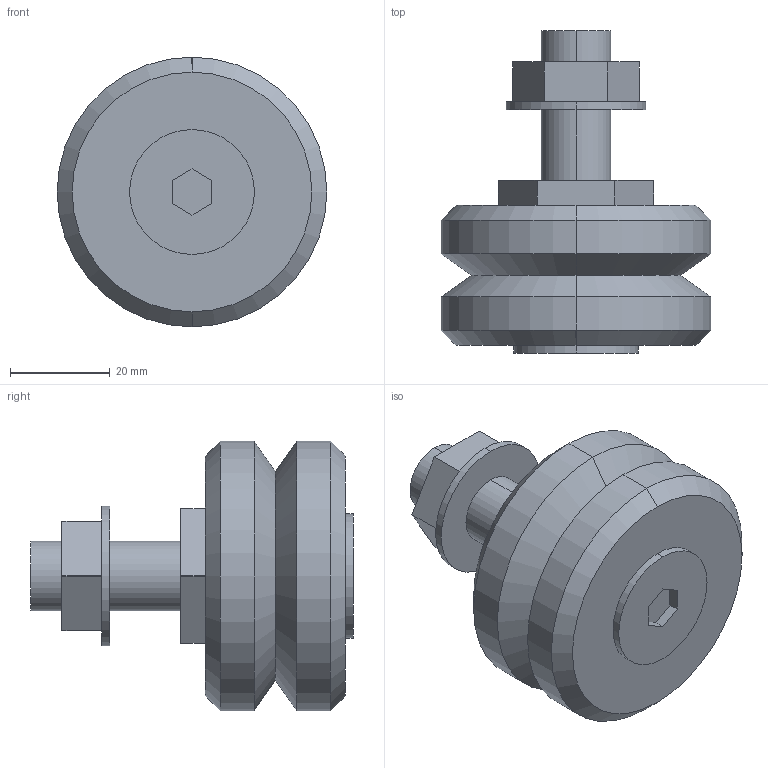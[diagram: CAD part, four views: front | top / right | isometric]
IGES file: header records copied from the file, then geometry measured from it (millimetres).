
Start section: 3D InterOp IGES (v. 2019 1.0.2), Spatial Corp. Copyright (c) 1999-2017.
Global section: file name: SS LJ54 C.igs; native system: Spatial Corp.; preprocessor: 3D InterOp GENERIC/IGES 3.0; author: Noname; organization: Noname; date: 20220628.114800; units: millimetre
Bounding box: 54 x 64.6 x 54 mm (x, y, z)
Surface area: 12724.5 mm2 (no closed solid volume)
Topology: 0 solids, 0 shells, 47 faces, 208 edges, 208 vertices
Faces by surface type: extrusion 27, revolution 20
